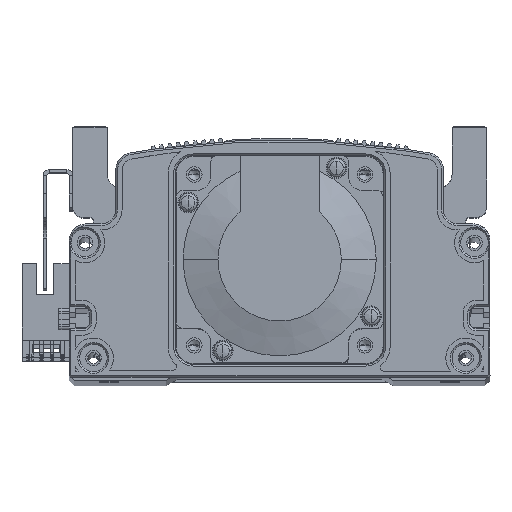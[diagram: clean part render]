
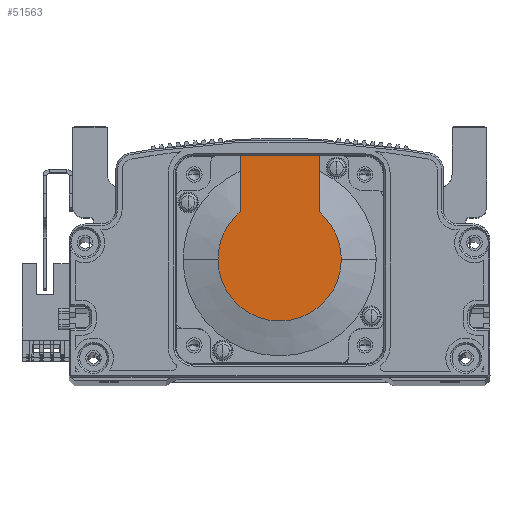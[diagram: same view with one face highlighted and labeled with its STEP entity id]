
A CAD part, top view. The second image highlights one B-rep face of the part: STEP entity #51563.
In plain terms, the highlighted planar face has unit normal (0, 0, 1) as drawn and (-1, 0, 0) by its records, which use the part's own axes.
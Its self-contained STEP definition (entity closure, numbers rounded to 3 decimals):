
#1223 = CARTESIAN_POINT ( 'NONE',  ( -118.5, 0., 0. ) ) ;
#1499 = AXIS2_PLACEMENT_3D ( 'NONE', #1223, #56541, #6817 ) ;
#2757 = EDGE_CURVE ( 'NONE', #58331, #50622, #11278, .T. ) ;
#4271 = CARTESIAN_POINT ( 'NONE',  ( -118.5, 13.735, 11.45 ) ) ;
#5090 = DIRECTION ( 'NONE',  ( -1., 0., 0. ) ) ;
#5099 = DIRECTION ( 'NONE',  ( 0., 0., -1. ) ) ;
#6271 = VERTEX_POINT ( 'NONE', #14805 ) ;
#6817 = DIRECTION ( 'NONE',  ( 0., 0., -1. ) ) ;
#7206 = AXIS2_PLACEMENT_3D ( 'NONE', #19733, #58562, #31061 ) ;
#7636 = FACE_OUTER_BOUND ( 'NONE', #25287, .T. ) ;
#8489 = CARTESIAN_POINT ( 'NONE',  ( -118.5, 0., 11.45 ) ) ;
#8630 = PLANE ( 'NONE',  #7206 ) ;
#8933 = DIRECTION ( 'NONE',  ( 0., -1., 0. ) ) ;
#9285 = CIRCLE ( 'NONE', #24844, 17.881 ) ;
#11278 = CIRCLE ( 'NONE', #1499, 17.881 ) ;
#11414 = DIRECTION ( 'NONE',  ( 0., 0., -1. ) ) ;
#12578 = CARTESIAN_POINT ( 'NONE',  ( -118.5, 30., 25. ) ) ;
#12773 = ORIENTED_EDGE ( 'NONE', *, *, #2757, .T. ) ;
#14348 = EDGE_CURVE ( 'NONE', #27786, #37023, #31441, .T. ) ;
#14805 = CARTESIAN_POINT ( 'NONE',  ( -118.5, 30., -11.45 ) ) ;
#16798 = CARTESIAN_POINT ( 'NONE',  ( -118.5, 0., -17.881 ) ) ;
#19733 = CARTESIAN_POINT ( 'NONE',  ( -118.5, -8.941, 0. ) ) ;
#20005 = VECTOR ( 'NONE', #8933, 1000. ) ;
#21529 = EDGE_CURVE ( 'NONE', #50622, #27786, #9285, .T. ) ;
#24844 = AXIS2_PLACEMENT_3D ( 'NONE', #43754, #32634, #5099 ) ;
#25287 = EDGE_LOOP ( 'NONE', ( #46654, #12773, #44153, #71483, #55036, #57586 ) ) ;
#26014 = EDGE_CURVE ( 'NONE', #6271, #58331, #26052, .T. ) ;
#26052 = LINE ( 'NONE', #54560, #40675 ) ;
#27118 = CARTESIAN_POINT ( 'NONE',  ( -118.5, 0., 0. ) ) ;
#27786 = VERTEX_POINT ( 'NONE', #61552 ) ;
#27964 = EDGE_CURVE ( 'NONE', #39046, #37023, #54534, .T. ) ;
#29056 = EDGE_CURVE ( 'NONE', #6271, #39046, #62200, .T. ) ;
#31061 = DIRECTION ( 'NONE',  ( 0., 0., 1. ) ) ;
#31441 = CIRCLE ( 'NONE', #33611, 17.881 ) ;
#32634 = DIRECTION ( 'NONE',  ( -1., 0., 0. ) ) ;
#33611 = AXIS2_PLACEMENT_3D ( 'NONE', #27118, #5090, #11414 ) ;
#37023 = VERTEX_POINT ( 'NONE', #4271 ) ;
#39046 = VERTEX_POINT ( 'NONE', #44229 ) ;
#40675 = VECTOR ( 'NONE', #70248, 1000. ) ;
#43754 = CARTESIAN_POINT ( 'NONE',  ( -118.5, 0., 0. ) ) ;
#44153 = ORIENTED_EDGE ( 'NONE', *, *, #21529, .T. ) ;
#44229 = CARTESIAN_POINT ( 'NONE',  ( -118.5, 30., 11.45 ) ) ;
#44620 = CARTESIAN_POINT ( 'NONE',  ( -118.5, 13.735, -11.45 ) ) ;
#45804 = DIRECTION ( 'NONE',  ( 0., 0., 1. ) ) ;
#46654 = ORIENTED_EDGE ( 'NONE', *, *, #26014, .T. ) ;
#47478 = VECTOR ( 'NONE', #45804, 1000. ) ;
#50622 = VERTEX_POINT ( 'NONE', #16798 ) ;
#51563 = ADVANCED_FACE ( 'NONE', ( #7636 ), #8630, .T. ) ;
#54534 = LINE ( 'NONE', #8489, #20005 ) ;
#54560 = CARTESIAN_POINT ( 'NONE',  ( -118.5, -8.941, -11.45 ) ) ;
#55036 = ORIENTED_EDGE ( 'NONE', *, *, #27964, .F. ) ;
#56541 = DIRECTION ( 'NONE',  ( -1., 0., 0. ) ) ;
#57586 = ORIENTED_EDGE ( 'NONE', *, *, #29056, .F. ) ;
#58331 = VERTEX_POINT ( 'NONE', #44620 ) ;
#58562 = DIRECTION ( 'NONE',  ( -1., 0., 0. ) ) ;
#61552 = CARTESIAN_POINT ( 'NONE',  ( -118.5, 0., 17.881 ) ) ;
#62200 = LINE ( 'NONE', #12578, #47478 ) ;
#70248 = DIRECTION ( 'NONE',  ( 0., -1., 0. ) ) ;
#71483 = ORIENTED_EDGE ( 'NONE', *, *, #14348, .T. ) ;
